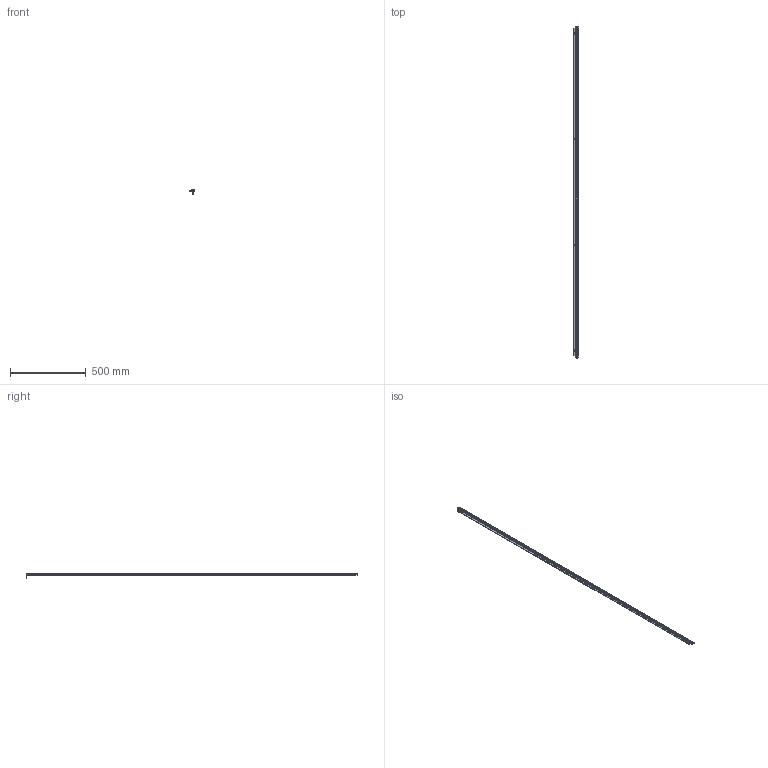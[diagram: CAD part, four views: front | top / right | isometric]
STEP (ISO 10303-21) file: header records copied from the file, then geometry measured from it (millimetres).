
FILE_DESCRIPTION (( 'STEP AP214' ), '1' );
FILE_NAME ('ILGA-L-K1a-2190mm.STEP', '2026-04-24T23:10:25', ( '' ), ( '' ), 'SwSTEP 2.0', 'SolidWorks 2025', '' );
FILE_SCHEMA (( 'AUTOMOTIVE_DESIGN' ));
Length unit declared in the file: millimetre
Products named in the file (1): ILGA-L-K1a-2190mm
Bounding box: 35 x 2190 x 34.2 mm (x, y, z)
Volume: 227078.9 mm3; surface area: 337091.8 mm2
Topology: 9 solids, 9 shells, 684 faces, 1778 edges, 1086 vertices
Faces by surface type: plane 293, cylinder 247, cone 60, torus 44, bspline 24, sphere 16
Entity records: 28741 total; most frequent: CARTESIAN_POINT 4449, DIRECTION 3632, ORIENTED_EDGE 3468, EDGE_CURVE 1734, AXIS2_PLACEMENT_3D 1357, VERTEX_POINT 1086, VECTOR 918, LINE 918
